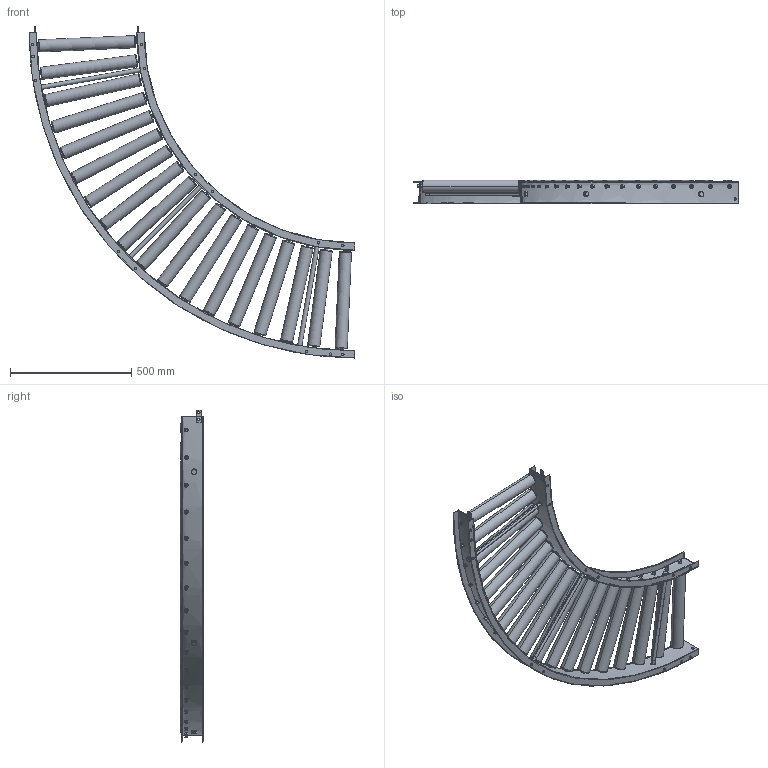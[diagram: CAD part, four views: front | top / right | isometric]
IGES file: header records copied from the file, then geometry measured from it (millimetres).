
Start section: SolidWorks IGES file using analytic representation for surfaces
Global section: file name: C:\Users\0656\Desktop\変換ツール\iges変換\JR-5028_C.igs; native system: SolidWorks 2023; preprocessor: SolidWorks 2023; author: 0656; date: 240315.111657; units: millimetre
Bounding box: 1345 x 96.65 x 1370.09 mm (x, y, z)
Surface area: 3180491.3 mm2 (no closed solid volume)
Topology: 0 solids, 0 shells, 820 faces, 17884 edges, 17884 vertices
Faces by surface type: revolution 442, bspline 378
